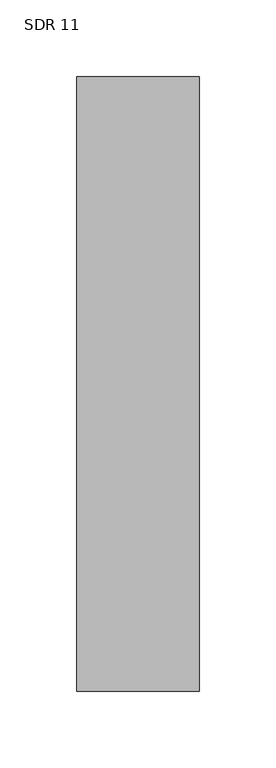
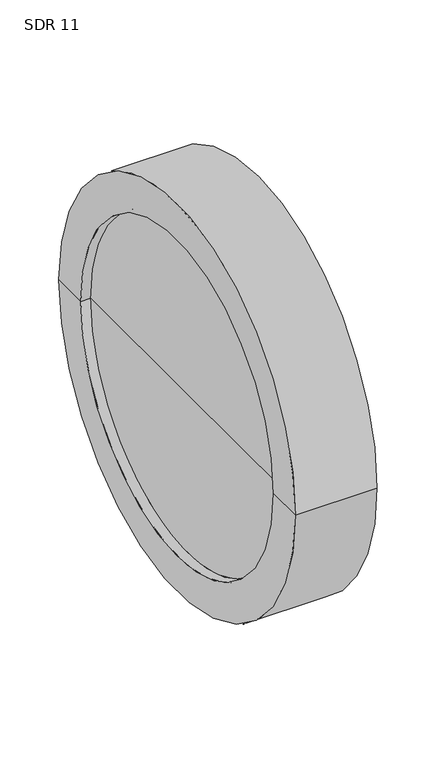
"""IFC4 building model written with IfcOpenShell, lengths in millimetres: pipe fitting geometry, Aquatherm - End Cap Butt-Weld : SDR 11."""

from ifc_helpers import new_model, si_unit, frame, origin, place, context, project, spatial, polyline, circle_curve, source, transform, mapped, element, save
from ifc_brep_helpers import plane_surface, cylinder_surface, revolved_surface, advanced_brep


def sdr_11_62409653(model_context):
    return source(origin(), model_context, "Body", "AdvancedBrep", [
        advanced_brep(
        [(80.01, -200.66, 0.0), (80.01, 200.66, 0.0), (80.01, 0.0, 0.0), (9.906, 0.0, 0.0), (9.906, 163.83, 0.0), (9.906, -163.83, 0.0), (0.0, 163.83, 0.0), (0.0, -163.83, 0.0), (0.0, 200.66, 0.0), (0.0, -200.66, 0.0)],
        [
            (0, 1, circle_curve(frame((80.01, 0.0, 0.0), z_axis=(1.0, 0.0, 0.0), x_axis=(0.0, 1.0, 0.0)), 200.66)),
            (1, 2),
            (2, 0),
            (1, 0, circle_curve(frame((80.01, 0.0, 0.0), z_axis=(1.0, 0.0, 0.0), x_axis=(0.0, 1.0, 0.0)), 200.66)),
            (3, 4),
            (4, 5, circle_curve(frame((9.906, 0.0, 0.0), z_axis=(-1.0, 0.0, 0.0), x_axis=(0.0, 1.0, 0.0)), 163.83)),
            (5, 3),
            (5, 4, circle_curve(frame((9.906, 0.0, 0.0), z_axis=(-1.0, 0.0, 0.0), x_axis=(0.0, 1.0, 0.0)), 163.83)),
            (4, 6),
            (6, 7, circle_curve(frame((0.0, 0.0, 0.0), z_axis=(-1.0, 0.0, 0.0), x_axis=(0.0, 1.0, 0.0)), 163.83)),
            (7, 5),
            (7, 6, circle_curve(frame((0.0, 0.0, 0.0), z_axis=(-1.0, 0.0, 0.0), x_axis=(0.0, 1.0, 0.0)), 163.83)),
            (6, 8),
            (8, 9, circle_curve(frame((0.0, 0.0, 0.0), z_axis=(-1.0, 0.0, 0.0), x_axis=(0.0, 1.0, 0.0)), 200.66)),
            (9, 7),
            (9, 8, circle_curve(frame((0.0, 0.0, 0.0), z_axis=(-1.0, 0.0, 0.0), x_axis=(0.0, 1.0, 0.0)), 200.66)),
            (8, 1),
            (0, 9),
        ],
        [
            plane_surface(frame((80.01, 0.0, 0.0), z_axis=(1.0, 0.0, 0.0), x_axis=(0.0, 1.0, 0.0))),
            plane_surface(frame((9.906, 0.0, 0.0), z_axis=(-1.0, 0.0, 0.0), x_axis=(0.0, 1.0, 0.0))),
            revolved_surface(polyline([(0.0, 163.83, 0.0), (9.905999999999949, 163.83, 0.0)]), (-1363.98, 0.0, 0.0), (-1.0, 0.0, 0.0)),
            plane_surface(frame((0.0, 0.0, 0.0), z_axis=(-1.0, 0.0, 0.0), x_axis=(0.0, 1.0, 0.0))),
            cylinder_surface(frame((-1363.98, 0.0, 0.0), z_axis=(-1.0, 0.0, 0.0), x_axis=(0.0, 1.0, 0.0)), 200.66),
        ],
        [
            (0, [[1, 2, 3]]),
            (0, [[4, -3, -2]]),
            (1, [[5, 6, 7]]),
            (1, [[-7, 8, -5]]),
            (2, [[-6, 9, 10, 11]]),
            (2, [[-8, -11, 12, -9]]),
            (3, [[-10, 13, 14, 15]]),
            (3, [[-12, -15, 16, -13]]),
            (4, [[-14, 17, -1, 18]]),
            (4, [[-16, -18, -4, -17]]),
        ],
    ),
    ])


if __name__ == "__main__":
    model = new_model("IFC4")
    model_context = context("Model", 3, world=origin())
    ifc_project = project(units=[si_unit("LENGTHUNIT", "METRE", prefix="MILLI")], contexts=[model_context])
    site = spatial("IfcSite", under=ifc_project)
    building = spatial("IfcBuilding", under=site)
    placement = place(None, origin())
    sdr_11_shape = sdr_11_62409653(model_context)
    element("IfcPipeFitting", 1, ObjectType="Aquatherm - End Cap Butt-Weld : SDR 11", at=placement, inside=building, context=model_context, shape_type="MappedRepresentation", body=[
        mapped(sdr_11_shape, transform((0.0, 0.0, 0.0), x_axis=(1.0, 0.0, 0.0), y_axis=(0.0, 1.0, 0.0), z_axis=(0.0, 0.0, 1.0))),
    ])
    save(model, "model.ifc")
